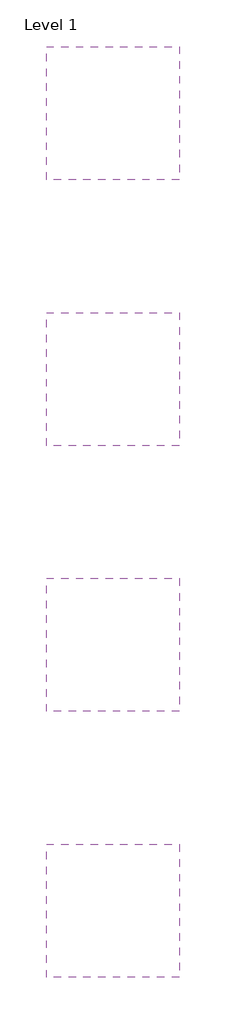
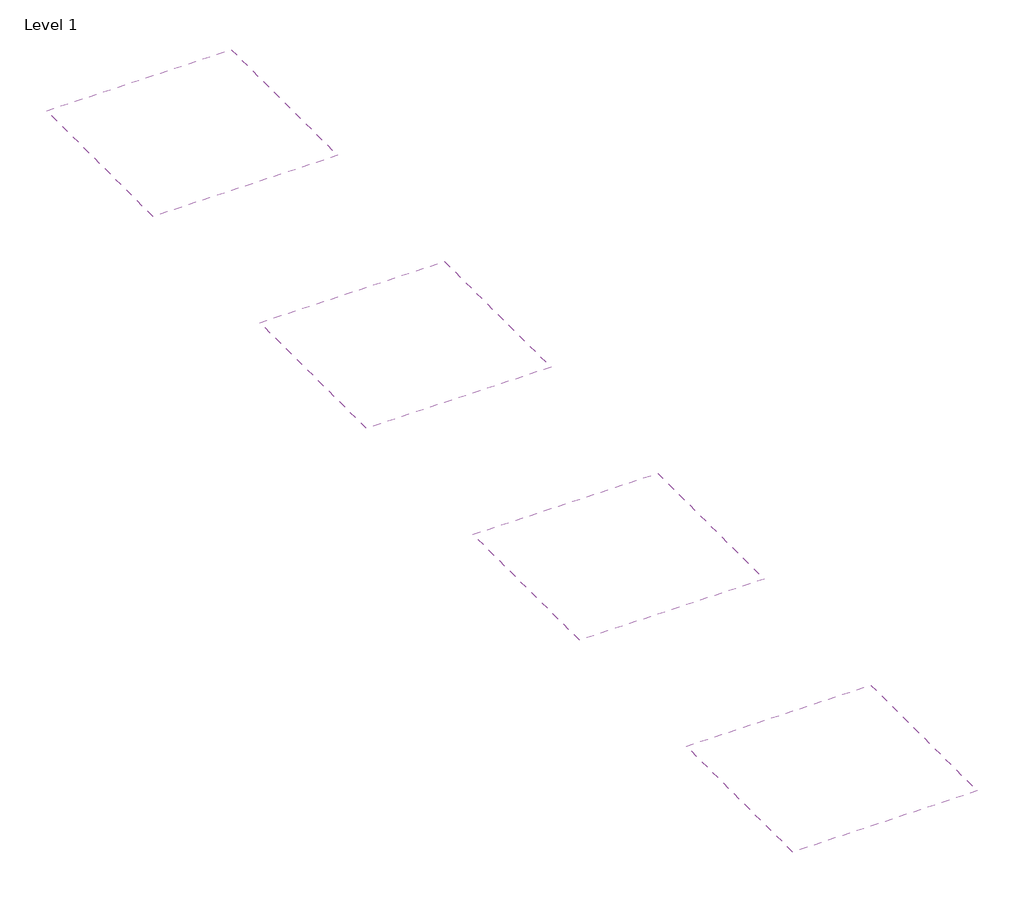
# One storey: 4 coverings.
"""IFC4 building model written with IfcOpenShell, lengths in millimetres."""

from ifc_helpers import new_model, si_unit, frame, origin, place, context, project, spatial, polyline, outline, extrude, element, save

model = new_model("IFC4")

# Units and contexts
model_context = context("Model", 3, world=origin())
ifc_project = project(units=[si_unit("LENGTHUNIT", "METRE", prefix="MILLI")], contexts=[model_context])

# Site, building, storey
site = spatial("IfcSite", under=ifc_project)
building = spatial("IfcBuilding", under=site)
storey = spatial("IfcBuildingStorey", under=building, Name="Level 1", Elevation=0.0)

# Coverings
placement = place(None, origin())
element("IfcCovering", 1, ObjectType="NBS_ArmstrongCeilingsLtd_UnitModularSuspendedCeilingSystem_Ultima+OPBoard-Prelude24Exposed_600x600x20mm_GB", at=placement, inside=storey, context=model_context, shape_type="SweptSolid", body=[
    extrude(outline(polyline([(2500.0, 17500.0), (2500.0, 15000.0), (0.0, 15000.0), (0.0, 17500.0), (2500.0, 17500.0)])), frame((0.0, 0.0, 2600.0), z_axis=(0.0, 0.0, 1.0), x_axis=(1.0, 0.0, 0.0)), (0.0, 0.0, 1.0), 43.0),
])
element("IfcCovering", 2, ObjectType="NBS_ArmstrongCeilingsLtd_UnitModularSuspendedCeilingSystem_Ultima+OPBoard-Prelude24Exposed_625x625x20mm_DE", at=placement, inside=storey, context=model_context, shape_type="SweptSolid", body=[
    extrude(outline(polyline([(2500.0, 12500.0), (2500.0, 10000.0), (0.0, 10000.0), (0.0, 12500.0), (2500.0, 12500.0)])), frame((0.0, 0.0, 2600.0), z_axis=(0.0, 0.0, 1.0), x_axis=(1.0, 0.0, 0.0)), (0.0, 0.0, 1.0), 43.0),
])
element("IfcCovering", 3, ObjectType="NBS_ArmstrongCeilingsLtd_UnitModularSuspendedCeilingSystem_Ultima+OPBoard-Prelude24Exposed_675x675x20mm_FR", at=placement, inside=storey, context=model_context, shape_type="SweptSolid", body=[
    extrude(outline(polyline([(2500.0, 7500.0), (2500.0, 5000.0), (0.0, 5000.0), (0.0, 7500.0), (2500.0, 7500.0)])), frame((0.0, 0.0, 2600.0), z_axis=(0.0, 0.0, 1.0), x_axis=(1.0, 0.0, 0.0)), (0.0, 0.0, 1.0), 43.0),
])
element("IfcCovering", 4, ObjectType="NBS_ArmstrongCeilingsLtd_UnitModularSuspendedCeilingSystem_Ultima+OPBoard-Prelude24Exposed_1200x600x20mm_GB", at=placement, inside=storey, context=model_context, shape_type="SweptSolid", body=[
    extrude(outline(polyline([(2500.0, 2500.0), (2500.0, 0.0), (0.0, 0.0), (0.0, 2500.0), (2500.0, 2500.0)])), frame((0.0, 0.0, 2600.0), z_axis=(0.0, 0.0, 1.0), x_axis=(1.0, 0.0, 0.0)), (0.0, 0.0, 1.0), 43.0),
])

save(model, "model.ifc")
